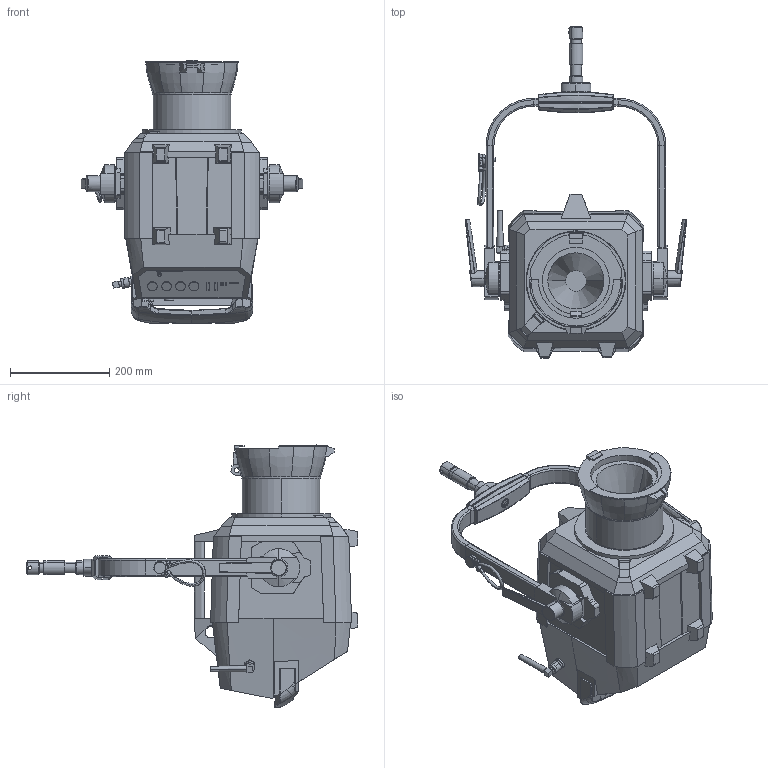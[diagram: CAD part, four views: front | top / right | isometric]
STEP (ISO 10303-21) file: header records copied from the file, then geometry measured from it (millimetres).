
FILE_DESCRIPTION (( 'STEP AP214' ), '1' );
FILE_NAME ('Orbiter OF 30°.STEP', '2020-04-30T11:58:06', ( '' ), ( '' ), 'SwSTEP 2.0', 'SolidWorks 2018', '' );
FILE_SCHEMA (( 'AUTOMOTIVE_DESIGN' ));
Length unit declared in the file: millimetre
Products named in the file (7): Control_Panel_import_part; Orbiter OF 30°; Antenne_import_part; OF30_update_Druckknopf; Haltebuegel_import_part; Set-Zapfen-lang-Doppelbuegel_import_part; Orbiter_import_part
Assembly tree (6 placements, depth 2):
  Orbiter OF 30°
    Orbiter_import_part
    Control_Panel_import_part
    Set-Zapfen-lang-Doppelbuegel_import_part
    Antenne_import_part
    Haltebuegel_import_part
    OF30_update_Druckknopf
Bounding box: 447.62 x 669.95 x 531.23 mm (x, y, z)
Volume: 19161861.1 mm3; surface area: 1371380.6 mm2
Topology: 6 solids, 9 shells, 1392 faces, 3662 edges, 2326 vertices
Faces by surface type: plane 662, bspline 305, cylinder 303, torus 53, cone 43, sphere 26
Entity records: 73099 total; most frequent: CARTESIAN_POINT 26087, ORIENTED_EDGE 7292, DIRECTION 5540, EDGE_CURVE 3646, VERTEX_POINT 2320, AXIS2_PLACEMENT_3D 1906, VECTOR 1728, LINE 1728
